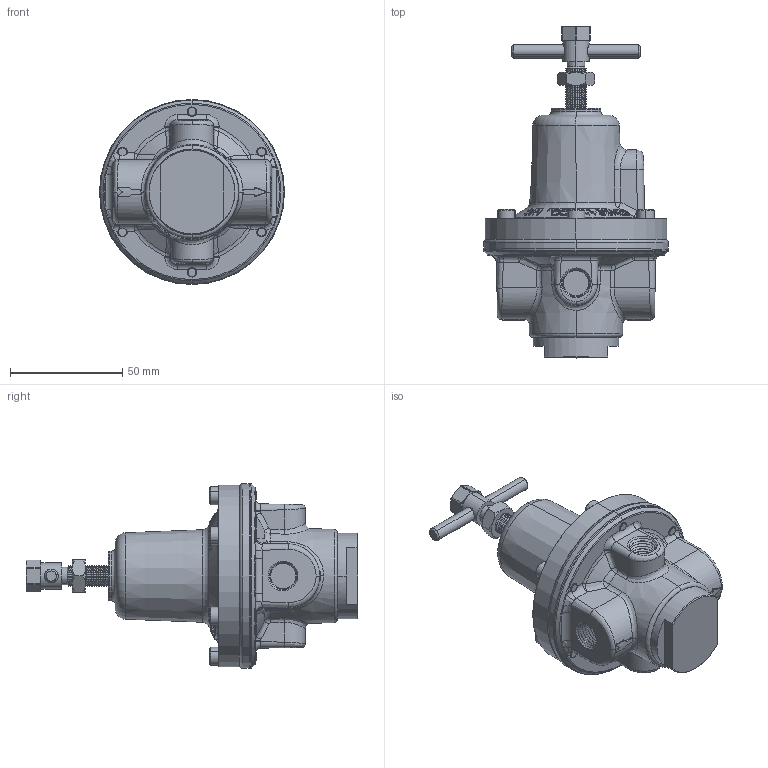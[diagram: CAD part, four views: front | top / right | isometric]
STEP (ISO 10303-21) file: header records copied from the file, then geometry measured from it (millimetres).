
FILE_DESCRIPTION (( 'STEP AP203' ), '1' );
FILE_NAME ('4GDR-250B.STEP', '2013-03-13T19:29:06', ( '' ), ( '' ), 'SwSTEP 2.0', 'SolidWorks 2011', '' );
FILE_SCHEMA (( 'CONFIG_CONTROL_DESIGN' ));
Length unit declared in the file: inch
Products named in the file (3): 4GDR-250B; Part1^4GDR-250B_CM; Part2^4GDR-250B_CM
Assembly tree (1 placements, depth 2):
  4GDR-250B
    Part1^4GDR-250B_CM
  Part2^4GDR-250B_CM
Bounding box: 82.3 x 147.64 x 82.3 mm (x, y, z)
Volume: 244410.2 mm3; surface area: 35117.1 mm2
Topology: 1 solids, 6 shells, 1177 faces, 2708 edges, 1575 vertices
Faces by surface type: cone 417, plane 313, bspline 222, cylinder 179, torus 33, sphere 13
Entity records: 42623 total; most frequent: CARTESIAN_POINT 18048, ORIENTED_EDGE 5382, DIRECTION 4537, EDGE_CURVE 2691, AXIS2_PLACEMENT_3D 1778, VERTEX_POINT 1575, EDGE_LOOP 1236, FACE_OUTER_BOUND 1177
